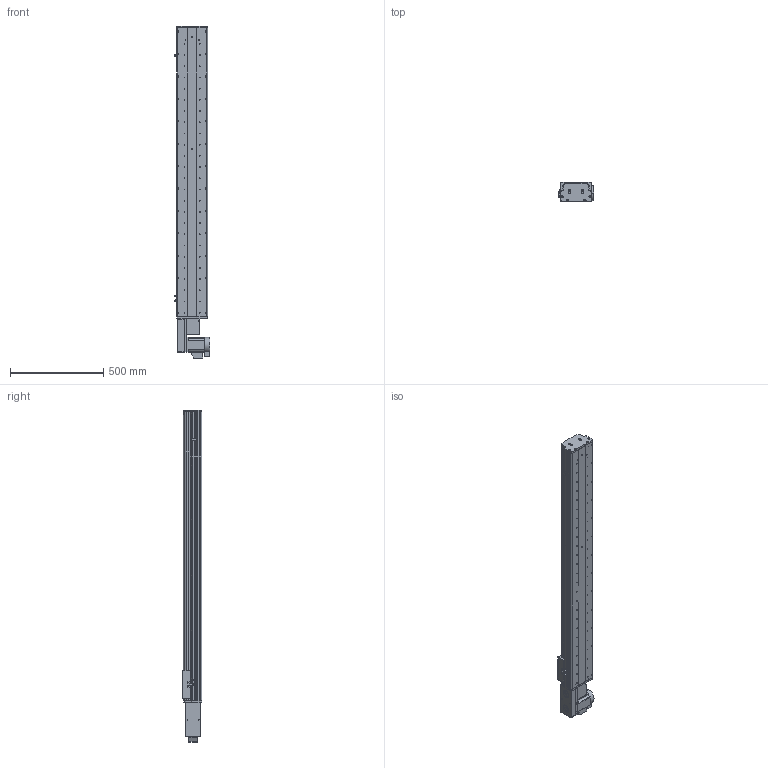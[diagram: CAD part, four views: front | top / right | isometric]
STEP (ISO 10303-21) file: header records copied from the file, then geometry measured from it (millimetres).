
FILE_DESCRIPTION (( 'STEP AP214' ), '1' );
FILE_NAME ('KSD165B-S1300-MLB-CM.STEP', '2017-10-16T06:29:49', ( '微软用户' ), ( '微软中国' ), 'SwSTEP 2.0', 'SolidWorks 2014', '' );
FILE_SCHEMA (( 'AUTOMOTIVE_DESIGN' ));
Length unit declared in the file: millimetre
Products named in the file (18): KSD165模组-后端板1-同步带; KSD165模组-防尘板支撑座1; KSD165模组-同步带滑动座-最新版; KSD165B-S1300-MLB-CM; HTPA26S5M250-A-H8 750W萇儂蚚; HTPA26S5M250-A-H8 400W萇儂蚚 ; 130宽模组马达安装板连板左右折同步带; 130宽模组保护罩上下左右折-同步带; 165宽马达安装板同步带左-改; KSD165模组-同步带防尘盖1-1300行程; KSD165模组同步带底板-1300行程; 拸秶雄ん750W侜督萇儂; U倰嫖萇假蚾璃; U倰嫖萇EEㄜSX672; 覜茼え68遵圉猾敕; KSD165模组-同步带-防撞垫2; KSD165模组同步带-防撞垫1; KSD165耀郪-ヶ傷啣1-肮祭湍
Assembly tree (21 placements, depth 2):
  KSD165B-S1300-MLB-CM
    KSD165模组-同步带滑动座-最新版
    KSD165模组-防尘板支撑座1
    KSD165模组-后端板1-同步带
    KSD165耀郪-ヶ傷啣1-肮祭湍
    KSD165模组同步带-防撞垫1
    KSD165模组-同步带-防撞垫2
    覜茼え68遵圉猾敕
    U倰嫖萇EEㄜSX672  x3
    U倰嫖萇假蚾璃  x3
    拸秶雄ん750W侜督萇儂
    KSD165模组同步带底板-1300行程
    KSD165模组-同步带防尘盖1-1300行程
    165宽马达安装板同步带左-改
    130宽模组保护罩上下左右折-同步带
    130宽模组马达安装板连板左右折同步带
    HTPA26S5M250-A-H8 400W萇儂蚚 
    HTPA26S5M250-A-H8 750W萇儂蚚
Bounding box: 191.2 x 104 x 1778 mm (x, y, z)
Volume: 9284723.4 mm3; surface area: 2164841.8 mm2
Topology: 22 solids, 23 shells, 2049 faces, 5780 edges, 3774 vertices
Faces by surface type: cylinder 1325, plane 608, cone 116
Entity records: 67050 total; most frequent: CARTESIAN_POINT 13677, DIRECTION 10974, ORIENTED_EDGE 10212, EDGE_CURVE 5106, AXIS2_PLACEMENT_3D 4309, VERTEX_POINT 3366, CIRCLE 2456, LINE 2356
